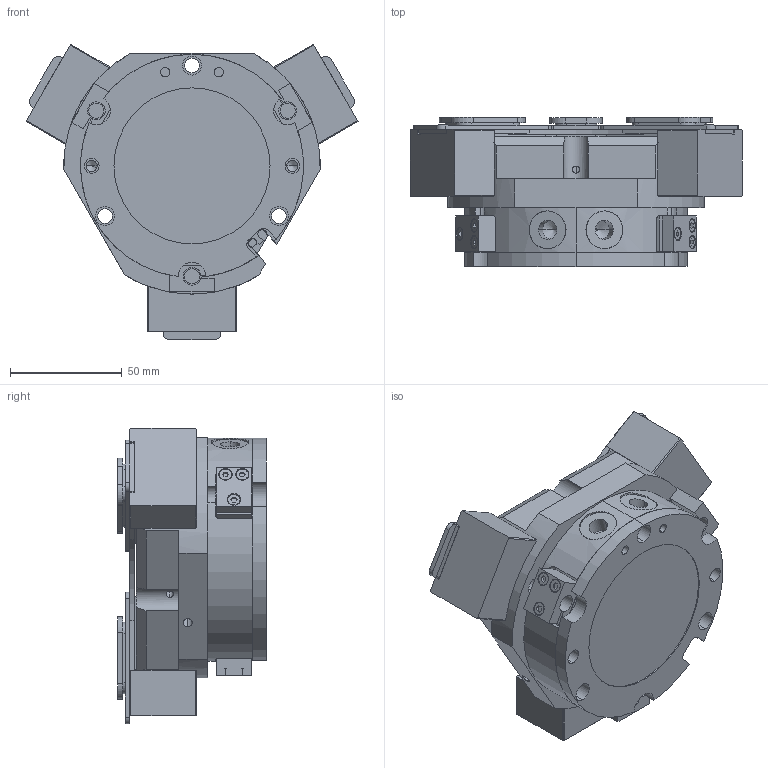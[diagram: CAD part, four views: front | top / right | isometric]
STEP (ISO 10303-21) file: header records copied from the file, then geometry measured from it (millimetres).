
FILE_DESCRIPTION (( 'STEP AP214' ), '1' );
FILE_NAME ('FCT 100A-1-SD.STEP', '2021-09-17T06:27:39', ( 'DEEP' ), ( 'Microsoft' ), 'SwSTEP 2.0', 'SolidWorks 2016', '' );
FILE_SCHEMA (( 'AUTOMOTIVE_DESIGN' ));
Length unit declared in the file: millimetre
Products named in the file (31): FCT 100A-1-002; FCT 100A-1-001; FCT 100A-1-004; FCT 100A-1-SD; FCT100A-1-SD-004; FCT100A-1-sd; FCT100A-1-SD-003; FCT100A-1-SD-002; FCT100A-1-SD-001; FCT 100A-1-005; FCT 100A-1-003
Assembly tree (21 placements, depth 3):
  FCT 100A-1-002
  FCT 100A-1-001
  FCT 100A-1-001
  FCT 100A-1-004
  FCT 100A-1-SD
    FCT 100A-1-004
    FCT 100A-1-001  x3
    FCT 100A-1-002
    FCT 100A-1-003  x3
    FCT 100A-1-005
    FCT100A-1-sd
      FCT100A-1-SD-001  x4
      FCT100A-1-SD-002
      FCT100A-1-SD-003  x3
      FCT100A-1-SD-004  x3
Bounding box: 148.86 x 66.7 x 132.47 mm (x, y, z)
Volume: 561601.6 mm3; surface area: 136700.5 mm2
Topology: 20 solids, 20 shells, 833 faces, 2158 edges, 1386 vertices
Faces by surface type: plane 425, cylinder 300, cone 108
Entity records: 19370 total; most frequent: CARTESIAN_POINT 3537, DIRECTION 2892, ORIENTED_EDGE 2704, EDGE_CURVE 1352, AXIS2_PLACEMENT_3D 1053, VERTEX_POINT 882, LINE 786, VECTOR 786
